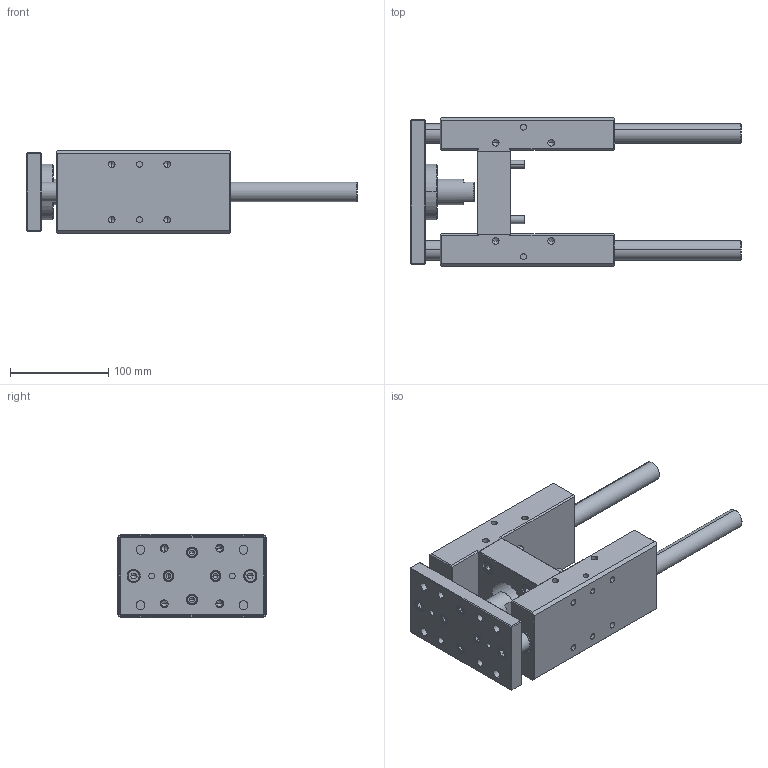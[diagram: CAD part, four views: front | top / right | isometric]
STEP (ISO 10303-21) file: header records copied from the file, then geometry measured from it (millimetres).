
FILE_DESCRIPTION (( 'STEP AP214' ), '1' );
FILE_NAME ('27_094_2.STEP', '2017-02-27T09:55:13', ( '' ), ( '' ), 'SwSTEP 2.0', 'SolidWorks 2016', '' );
FILE_SCHEMA (( 'AUTOMOTIVE_DESIGN' ));
Length unit declared in the file: millimetre
Products named in the file (1): 27_094_2
Bounding box: 337 x 152 x 85 mm (x, y, z)
Volume: 1584489.8 mm3; surface area: 228355.8 mm2
Topology: 16 solids, 20 shells, 613 faces, 1411 edges, 866 vertices
Faces by surface type: plane 230, cylinder 226, cone 121, bspline 36
Entity records: 24787 total; most frequent: CARTESIAN_POINT 3975, DIRECTION 3009, ORIENTED_EDGE 2718, EDGE_CURVE 1359, AXIS2_PLACEMENT_3D 1164, VERTEX_POINT 866, EDGE_LOOP 751, VECTOR 681
